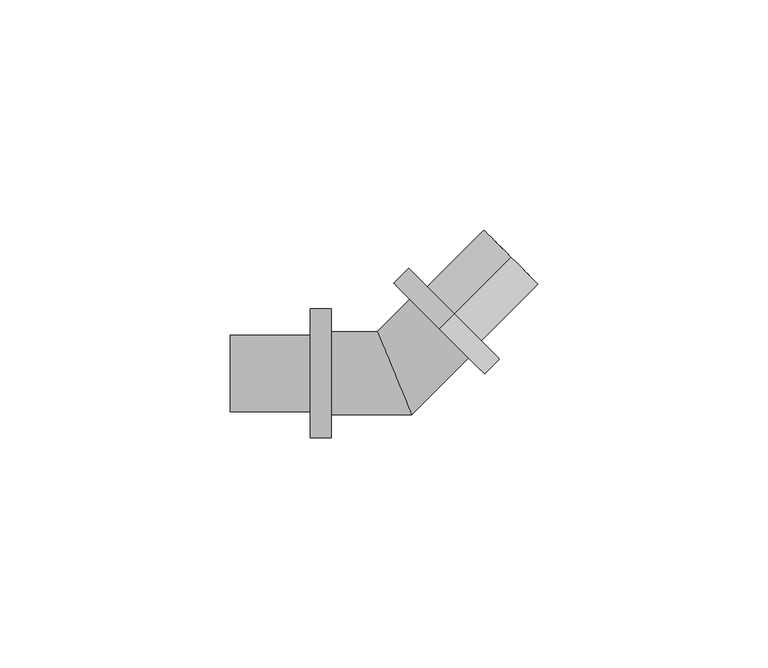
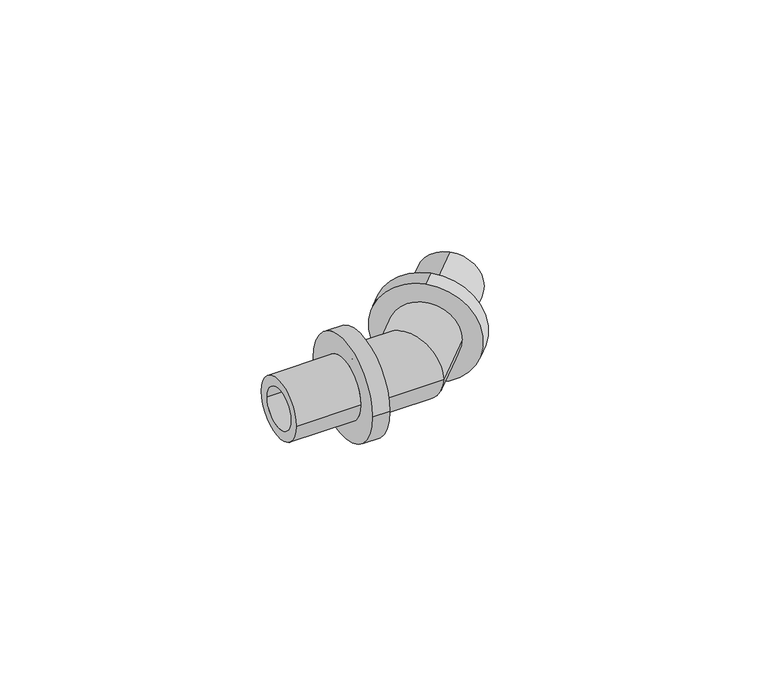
"""IFC4 building model written with IfcOpenShell, lengths in millimetres: pipe fitting geometry, RAUTITAN_Corner_PX : RTI PX C DE."""

from ifc_helpers import new_model, si_unit, frame, origin, place, context, project, spatial, polyline, circle_curve, ellipse_curve, source, transform, mapped, element, save
from ifc_brep_helpers import plane_surface, cylinder_surface, revolved_surface, advanced_brep


def pipe_fitting_9d39727a(model_context):
    return source(origin(), model_context, "Body", "AdvancedBrep", [
        advanced_brep(
        [(12.9493903, 12.9493903, 14.0), (12.9493903, 12.9493903, -14.0), (9.6966991, 9.6966991, -14.0), (9.6966991, 9.6966991, 14.0), (25.2530483, 25.2530483, 8.3), (25.2530483, 25.2530483, -8.3), (12.9493903, 12.9493903, -8.3), (12.9493903, 12.9493903, 8.3), (9.6966991, 9.6966991, 5.6), (9.6966991, 9.6966991, -5.6), (25.2530483, 25.2530483, -5.6), (25.2530483, 25.2530483, 5.6)],
        [
            (0, 1, circle_curve(frame((12.9493903, 12.9493903, 0.0), z_axis=(-0.7071067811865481, -0.7071067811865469, 0.0), x_axis=(0.0, 0.0, -1.0)), 14.0)),
            (1, 2),
            (2, 3, circle_curve(frame((9.6966991, 9.6966991, 0.0), z_axis=(0.7071067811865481, 0.7071067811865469, 0.0), x_axis=(0.0, 0.0, -1.0)), 14.0)),
            (3, 0),
            (4, 5, circle_curve(frame((25.2530483, 25.2530483, 0.0), z_axis=(-0.7071067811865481, -0.7071067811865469, 0.0), x_axis=(0.0, 0.0, -1.0)), 8.3)),
            (5, 6),
            (6, 7, circle_curve(frame((12.9493903, 12.9493903, 0.0), z_axis=(0.7071067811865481, 0.7071067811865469, 0.0), x_axis=(0.0, 0.0, -1.0)), 8.3)),
            (7, 4),
            (8, 9, circle_curve(frame((9.6966991, 9.6966991, 0.0), z_axis=(-0.7071067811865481, -0.7071067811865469, 0.0), x_axis=(0.0, 0.0, -1.0)), 5.6)),
            (9, 10),
            (10, 11, circle_curve(frame((25.2530483, 25.2530483, 0.0), z_axis=(0.7071067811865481, 0.7071067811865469, 0.0), x_axis=(0.0, 0.0, -1.0)), 5.6)),
            (11, 8),
            (1, 0, circle_curve(frame((12.9493903, 12.9493903, 0.0), z_axis=(-0.7071067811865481, -0.7071067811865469, 0.0), x_axis=(0.0, 0.0, 1.0)), 14.0)),
            (3, 2, circle_curve(frame((9.6966991, 9.6966991, 0.0), z_axis=(0.7071067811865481, 0.7071067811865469, 0.0), x_axis=(0.0, 0.0, 1.0)), 14.0)),
            (6, 7, circle_curve(frame((12.9493903, 12.9493903, 0.0), z_axis=(-0.7071067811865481, -0.7071067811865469, 0.0), x_axis=(0.0, 0.0, 1.0)), 8.3)),
            (5, 4, circle_curve(frame((25.2530483, 25.2530483, 0.0), z_axis=(-0.7071067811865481, -0.7071067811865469, 0.0), x_axis=(0.0, 0.0, 1.0)), 8.3)),
            (10, 11, circle_curve(frame((25.2530483, 25.2530483, 0.0), z_axis=(-0.7071067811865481, -0.7071067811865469, 0.0), x_axis=(0.0, 0.0, 1.0)), 5.6)),
            (9, 8, circle_curve(frame((9.6966991, 9.6966991, 0.0), z_axis=(-0.7071067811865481, -0.7071067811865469, 0.0), x_axis=(0.0, 0.0, 1.0)), 5.6)),
        ],
        [
            cylinder_surface(frame((9.6966991, 9.6966991, 0.0), z_axis=(0.7071067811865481, 0.7071067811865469, 0.0), x_axis=(0.0, 0.0, -1.0)), 14.0),
            cylinder_surface(frame((9.6966991, 9.6966991, 0.0), z_axis=(0.7071067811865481, 0.7071067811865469, 0.0), x_axis=(0.0, 0.0, -1.0)), 8.3),
            revolved_surface(polyline([(25.25304830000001, 25.253048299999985, -5.6), (9.6966991, 9.6966991, -5.6)]), (9.6966991, 9.6966991, 0.0), (0.7071067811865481, 0.7071067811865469, 0.0)),
            cylinder_surface(frame((9.6966991, 9.6966991, 0.0), z_axis=(0.7071067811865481, 0.7071067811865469, 0.0), x_axis=(0.0, 0.0, 1.0)), 14.0),
            plane_surface(frame((12.9493903, 12.9493903, 0.0), z_axis=(0.7071067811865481, 0.7071067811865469, 0.0), x_axis=(0.0, 0.0, 1.0))),
            cylinder_surface(frame((9.6966991, 9.6966991, 0.0), z_axis=(0.7071067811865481, 0.7071067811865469, 0.0), x_axis=(0.0, 0.0, 1.0)), 8.3),
            plane_surface(frame((25.2530483, 25.2530483, 0.0), z_axis=(0.7071067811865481, 0.7071067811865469, 0.0), x_axis=(0.0, 0.0, 1.0))),
            revolved_surface(polyline([(25.25304830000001, 25.253048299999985, 5.6), (9.6966991, 9.6966991, 5.6)]), (9.6966991, 9.6966991, 0.0), (0.7071067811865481, 0.7071067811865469, 0.0)),
            plane_surface(frame((9.6966991, 9.6966991, 0.0), z_axis=(-0.7071067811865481, -0.7071067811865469, 0.0), x_axis=(0.0, 0.0, 1.0))),
        ],
        [
            (0, [[1, 2, 3, 4]]),
            (1, [[5, 6, 7, 8]]),
            (2, [[9, 10, 11, 12]]),
            (3, [[13, -4, 14, -2]]),
            (4, [[-13, -1], [15, -7]]),
            (5, [[16, -8, -15, -6]]),
            (6, [[-16, -5], [17, -11]]),
            (7, [[18, -12, -17, -10]]),
            (8, [[-14, -3], [-18, -9]]),
        ],
    ),
        advanced_brep(
        [(-18.3132034, -14.0, 0.0), (-18.3132034, 14.0, 0.0), (-13.7132034, 14.0, 0.0), (-13.7132034, -14.0, 0.0), (-35.7132034, -8.3, 0.0), (-35.7132034, 8.3, 0.0), (-18.3132034, 8.3, 0.0), (-18.3132034, -8.3, 0.0), (-13.7132034, -5.6, 0.0), (-13.7132034, 5.6, 0.0), (-35.7132034, 5.6, 0.0), (-35.7132034, -5.6, 0.0)],
        [
            (0, 1, circle_curve(frame((-18.3132034, 0.0, 0.0), z_axis=(1.0, 0.0, 0.0), x_axis=(0.0, 1.0, 0.0)), 14.0)),
            (1, 2),
            (2, 3, circle_curve(frame((-13.7132034, 0.0, 0.0), z_axis=(-1.0, 0.0, 0.0), x_axis=(0.0, 1.0, 0.0)), 14.0)),
            (3, 0),
            (4, 5, circle_curve(frame((-35.7132034, 0.0, 0.0), z_axis=(1.0, 0.0, 0.0), x_axis=(0.0, 1.0, 0.0)), 8.3)),
            (5, 6),
            (6, 7, circle_curve(frame((-18.3132034, 0.0, 0.0), z_axis=(-1.0, 0.0, 0.0), x_axis=(0.0, 1.0, 0.0)), 8.3)),
            (7, 4),
            (8, 9, circle_curve(frame((-13.7132034, 0.0, 0.0), z_axis=(1.0, 0.0, 0.0), x_axis=(0.0, 1.0, 0.0)), 5.6)),
            (9, 10),
            (10, 11, circle_curve(frame((-35.7132034, 0.0, 0.0), z_axis=(-1.0, 0.0, 0.0), x_axis=(0.0, 1.0, 0.0)), 5.6)),
            (11, 8),
            (1, 0, circle_curve(frame((-18.3132034, 0.0, 0.0), z_axis=(1.0, 0.0, 0.0), x_axis=(0.0, -1.0, 0.0)), 14.0)),
            (3, 2, circle_curve(frame((-13.7132034, 0.0, 0.0), z_axis=(-1.0, 0.0, 0.0), x_axis=(0.0, -1.0, 0.0)), 14.0)),
            (6, 7, circle_curve(frame((-18.3132034, 0.0, 0.0), z_axis=(1.0, 0.0, 0.0), x_axis=(0.0, -1.0, 0.0)), 8.3)),
            (5, 4, circle_curve(frame((-35.7132034, 0.0, 0.0), z_axis=(1.0, 0.0, 0.0), x_axis=(0.0, -1.0, 0.0)), 8.3)),
            (10, 11, circle_curve(frame((-35.7132034, 0.0, 0.0), z_axis=(1.0, 0.0, 0.0), x_axis=(0.0, -1.0, 0.0)), 5.6)),
            (9, 8, circle_curve(frame((-13.7132034, 0.0, 0.0), z_axis=(1.0, 0.0, 0.0), x_axis=(0.0, -1.0, 0.0)), 5.6)),
        ],
        [
            cylinder_surface(frame((-13.7132034, 0.0, 0.0), z_axis=(-1.0, 0.0, 0.0), x_axis=(0.0, 1.0, 0.0)), 14.0),
            cylinder_surface(frame((-13.7132034, 0.0, 0.0), z_axis=(-1.0, 0.0, 0.0), x_axis=(0.0, 1.0, 0.0)), 8.3),
            revolved_surface(polyline([(-35.7132034, 5.6, 0.0), (-13.7132034, 5.6, 0.0)]), (-13.7132034, 0.0, 0.0), (-1.0, 0.0, 0.0)),
            cylinder_surface(frame((-13.7132034, 0.0, 0.0), z_axis=(-1.0, 0.0, 0.0), x_axis=(0.0, -1.0, 0.0)), 14.0),
            plane_surface(frame((-18.3132034, 0.0, 0.0), z_axis=(-1.0, 0.0, 0.0), x_axis=(0.0, -1.0, 0.0))),
            cylinder_surface(frame((-13.7132034, 0.0, 0.0), z_axis=(-1.0, 0.0, 0.0), x_axis=(0.0, -1.0, 0.0)), 8.3),
            plane_surface(frame((-35.7132034, 0.0, 0.0), z_axis=(-1.0, 0.0, 0.0), x_axis=(0.0, -1.0, 0.0))),
            revolved_surface(polyline([(-35.7132034, -5.6, 0.0), (-13.7132034, -5.6, 0.0)]), (-13.7132034, 0.0, 0.0), (-1.0, 0.0, 0.0)),
            plane_surface(frame((-13.7132034, 0.0, 0.0), z_axis=(1.0, 0.0, 0.0), x_axis=(0.0, -1.0, 0.0))),
        ],
        [
            (0, [[1, 2, 3, 4]]),
            (1, [[5, 6, 7, 8]]),
            (2, [[9, 10, 11, 12]]),
            (3, [[13, -4, 14, -2]]),
            (4, [[-13, -1], [15, -7]]),
            (5, [[16, -8, -15, -6]]),
            (6, [[-16, -5], [17, -11]]),
            (7, [[18, -12, -17, -10]]),
            (8, [[-14, -3], [-18, -9]]),
        ],
    ),
        advanced_brep(
        [(-13.7132034, -9.0, 0.0), (-13.7132034, 9.0, 0.0), (-13.7132034, -5.6, 0.0), (-13.7132034, 5.6, 0.0), (-2.3195959, 5.6, 0.0), (2.3195959, -5.6, 0.0), (16.0606602, 3.3327381, 0.0), (3.3327381, 16.0606602, 0.0), (13.6564971, 5.7369012, 0.0), (5.7369012, 13.6564971, 0.0), (3.7279221, -9.0, 0.0), (-3.7279221, 9.0, 0.0)],
        [
            (0, 1, circle_curve(frame((-13.7132034, 0.0, 0.0), z_axis=(-1.0, 0.0, 0.0), x_axis=(0.0, 1.0, 0.0)), 9.0)),
            (1, 0, circle_curve(frame((-13.7132034, 0.0, 0.0), z_axis=(-1.0, 0.0, 0.0), x_axis=(0.0, 1.0, 0.0)), 9.0)),
            (2, 3, circle_curve(frame((-13.7132034, 0.0, 0.0), z_axis=(1.0, 0.0, 0.0), x_axis=(0.0, 1.0, 0.0)), 5.6)),
            (3, 2, circle_curve(frame((-13.7132034, 0.0, 0.0), z_axis=(1.0, 0.0, 0.0), x_axis=(0.0, 1.0, 0.0)), 5.6)),
            (3, 4),
            (4, 5, ellipse_curve(frame((0.0, 0.0, 0.0), z_axis=(0.9238795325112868, 0.3826834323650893, 0.0), x_axis=(0.3826834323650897, -0.9238795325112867, 0.0)), 6.0613963, 5.6)),
            (5, 2),
            (5, 4, ellipse_curve(frame((0.0, 0.0, 0.0), z_axis=(0.9238795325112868, 0.3826834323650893, 0.0), x_axis=(0.3826834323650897, -0.9238795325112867, 0.0)), 6.0613963, 5.6)),
            (6, 7, circle_curve(frame((9.6966991, 9.6966991, 0.0), z_axis=(0.7071067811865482, 0.7071067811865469, 0.0), x_axis=(-0.7071067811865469, 0.7071067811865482, 0.0)), 9.0)),
            (7, 6, circle_curve(frame((9.6966991, 9.6966991, 0.0), z_axis=(0.7071067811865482, 0.7071067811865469, 0.0), x_axis=(-0.7071067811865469, 0.7071067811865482, 0.0)), 9.0)),
            (8, 9, circle_curve(frame((9.6966991, 9.6966991, 0.0), z_axis=(-0.7071067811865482, -0.7071067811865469, 0.0), x_axis=(-0.7071067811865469, 0.7071067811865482, 0.0)), 5.6)),
            (9, 8, circle_curve(frame((9.6966991, 9.6966991, 0.0), z_axis=(-0.7071067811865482, -0.7071067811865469, 0.0), x_axis=(-0.7071067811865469, 0.7071067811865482, 0.0)), 5.6)),
            (4, 9),
            (8, 5),
            (0, 10),
            (10, 11, ellipse_curve(frame((0.0, 0.0, 0.0), z_axis=(-0.9238795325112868, -0.3826834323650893, 0.0), x_axis=(-0.3826834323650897, 0.9238795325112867, 0.0)), 9.7415298, 9.0)),
            (11, 1),
            (11, 10, ellipse_curve(frame((0.0, 0.0, 0.0), z_axis=(-0.9238795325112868, -0.3826834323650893, 0.0), x_axis=(-0.3826834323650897, 0.9238795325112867, 0.0)), 9.7415298, 9.0)),
            (10, 6),
            (7, 11),
        ],
        [
            plane_surface(frame((-13.7132034, 0.0, 0.0), z_axis=(-1.0, 0.0, 0.0), x_axis=(0.0, 0.0, 1.0))),
            revolved_surface(polyline([(2.3195959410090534, 5.6, 0.0), (-13.7132034, 5.6, 0.0)]), (-13.7132034, 0.0, 0.0), (1.0, 0.0, 0.0)),
            plane_surface(frame((9.6966991, 9.6966991, 0.0), z_axis=(0.7071067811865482, 0.7071067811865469, 0.0), x_axis=(0.0, 0.0, 1.0))),
            revolved_surface(polyline([(5.736901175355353, 13.656497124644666, 0.0), (-5.60000002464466, 2.319595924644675, 0.0)]), (0.0, 0.0, 0.0), (0.7071067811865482, 0.7071067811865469, 0.0)),
            cylinder_surface(frame((-13.7132034, 0.0, 0.0), z_axis=(-1.0, 0.0, 0.0), x_axis=(0.0, 1.0, 0.0)), 9.0),
            cylinder_surface(frame((0.0, 0.0, 0.0), z_axis=(-0.7071067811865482, -0.7071067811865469, 0.0), x_axis=(-0.7071067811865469, 0.7071067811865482, 0.0)), 9.0),
        ],
        [
            (0, [[1, 2], [3, 4]]),
            (1, [[-4, 5, 6, 7]]),
            (1, [[-3, -7, 8, -5]]),
            (2, [[9, 10], [11, 12]]),
            (3, [[-6, 13, -11, 14]]),
            (3, [[-8, -14, -12, -13]]),
            (4, [[-1, 15, 16, 17]]),
            (4, [[-2, -17, 18, -15]]),
            (5, [[-16, 19, -10, 20]]),
            (5, [[-18, -20, -9, -19]]),
        ],
    ),
    ])


if __name__ == "__main__":
    model = new_model("IFC4")
    model_context = context("Model", 3, world=origin())
    ifc_project = project(units=[si_unit("LENGTHUNIT", "METRE", prefix="MILLI")], contexts=[model_context])
    site = spatial("IfcSite", under=ifc_project)
    building = spatial("IfcBuilding", under=site)
    placement = place(None, origin())
    pipe_fitting_shape = pipe_fitting_9d39727a(model_context)
    element("IfcPipeFitting", 1, ObjectType="RAUTITAN_Corner_PX : RTI PX C DE", at=placement, inside=building, context=model_context, shape_type="MappedRepresentation", body=[
        mapped(pipe_fitting_shape, transform((0.0, 0.0, 0.0), x_axis=(1.0, 0.0, 0.0), y_axis=(0.0, 1.0, 0.0), z_axis=(0.0, 0.0, 1.0))),
    ])
    save(model, "model.ifc")
